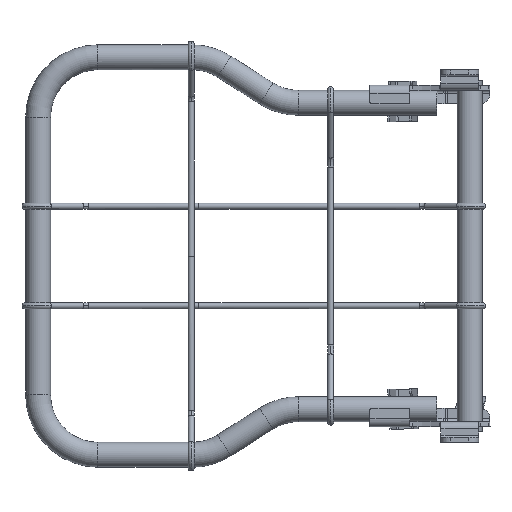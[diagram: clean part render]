
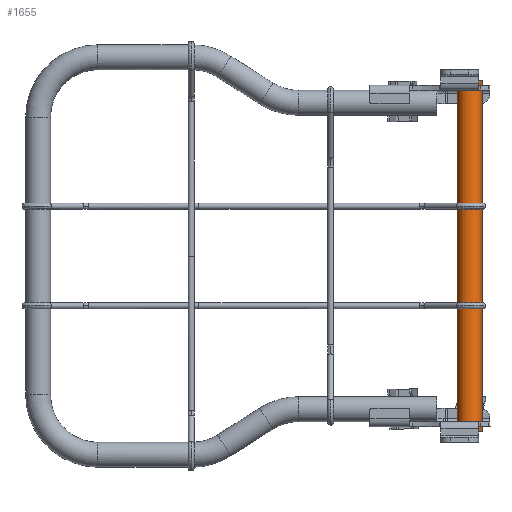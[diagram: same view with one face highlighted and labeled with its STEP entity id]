
A CAD part, top view. The second image highlights one B-rep face of the part: STEP entity #1655.
In plain terms, the highlighted cylindrical face has radius 12.5 mm (diameter 25 mm), a partial arc.
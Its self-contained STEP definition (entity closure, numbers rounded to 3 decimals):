
#1637=AXIS2_PLACEMENT_3D('Cylinder Axis2P3D',#1634,#1635,#1636) ;
#1641=AXIS2_PLACEMENT_3D('Circle Axis2P3D',#1639,#1640,$) ;
#1646=AXIS2_PLACEMENT_3D('Circle Axis2P3D',#1644,#1645,$) ;
#1599=CARTESIAN_POINT('Line Origine',(1243.899,624.94,371.126)) ;
#1603=CARTESIAN_POINT('Vertex',(1243.88,801.44,371.126)) ;
#1605=CARTESIAN_POINT('Vertex',(1243.917,448.44,371.126)) ;
#1612=CARTESIAN_POINT('Vertex',(1268.88,801.443,371.126)) ;
#1615=CARTESIAN_POINT('Line Origine',(1268.899,624.943,371.126)) ;
#1619=CARTESIAN_POINT('Vertex',(1268.917,448.443,371.126)) ;
#1634=CARTESIAN_POINT('Axis2P3D Location',(1256.399,624.942,371.126)) ;
#1639=CARTESIAN_POINT('Axis2P3D Location',(1256.417,448.442,371.126)) ;
#1644=CARTESIAN_POINT('Axis2P3D Location',(1256.38,801.442,371.126)) ;
#1600=DIRECTION('Vector Direction',(0.,-1.,0.)) ;
#1616=DIRECTION('Vector Direction',(0.,-1.,0.)) ;
#1635=DIRECTION('Axis2P3D Direction',(0.,-1.,0.)) ;
#1636=DIRECTION('Axis2P3D XDirection',(1.,0.,0.)) ;
#1640=DIRECTION('Axis2P3D Direction',(0.,-1.,0.)) ;
#1645=DIRECTION('Axis2P3D Direction',(0.,-1.,0.)) ;
#1601=VECTOR('Line Direction',#1600,1.) ;
#1617=VECTOR('Line Direction',#1616,1.) ;
#1650=ORIENTED_EDGE('',*,*,#1607,.T.) ;
#1651=ORIENTED_EDGE('',*,*,#1643,.T.) ;
#1652=ORIENTED_EDGE('',*,*,#1621,.F.) ;
#1653=ORIENTED_EDGE('',*,*,#1648,.F.) ;
#1655=ADVANCED_FACE('\X2\5EA76846540E6A2A7BA1\X0\\\\X2\96F64EF651E04F554F53\X0\',(#1654),#1638,.T.) ;
#1642=CIRCLE('generated circle',#1641,12.5) ;
#1647=CIRCLE('generated circle',#1646,12.5) ;
#1638=CYLINDRICAL_SURFACE('generated cylinder',#1637,12.5) ;
#1607=EDGE_CURVE('',#1604,#1606,#1602,.T.) ;
#1621=EDGE_CURVE('',#1613,#1620,#1618,.T.) ;
#1643=EDGE_CURVE('',#1606,#1620,#1642,.F.) ;
#1648=EDGE_CURVE('',#1604,#1613,#1647,.F.) ;
#1649=EDGE_LOOP('',(#1650,#1651,#1652,#1653)) ;
#1654=FACE_OUTER_BOUND('',#1649,.T.) ;
#1602=LINE('Line',#1599,#1601) ;
#1618=LINE('Line',#1615,#1617) ;
#1604=VERTEX_POINT('',#1603) ;
#1606=VERTEX_POINT('',#1605) ;
#1613=VERTEX_POINT('',#1612) ;
#1620=VERTEX_POINT('',#1619) ;
